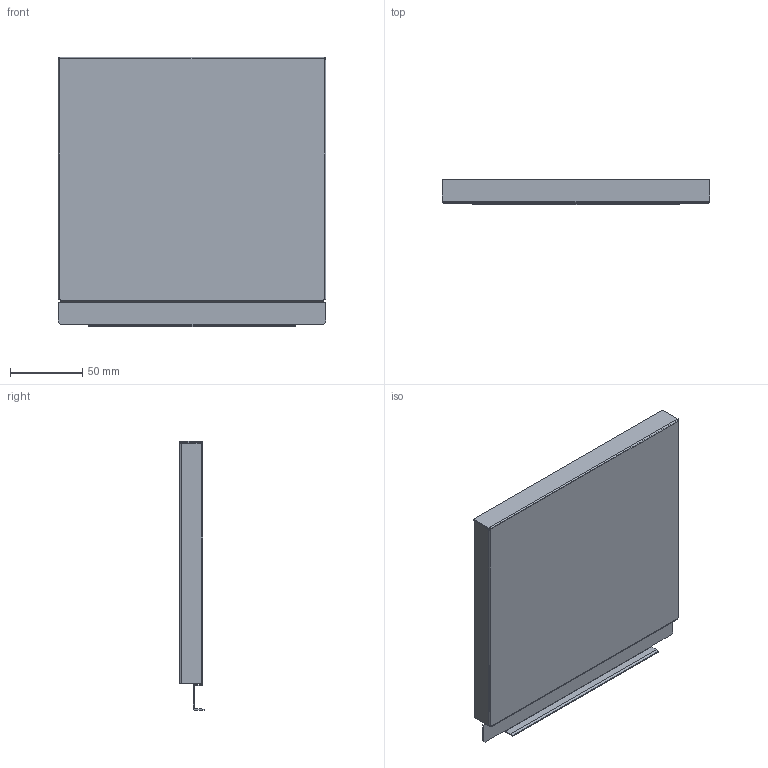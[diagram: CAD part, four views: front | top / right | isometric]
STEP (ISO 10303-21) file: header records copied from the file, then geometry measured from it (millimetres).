
FILE_DESCRIPTION (( 'STEP AP214' ), '1' );
FILE_NAME ('_STRW_H186_KAB_275.step', '2010-08-24T14:40:21', ( 'grass' ), ( '' ), 'SwSTEP 2.0', 'SolidWorks 2009', '' );
FILE_SCHEMA (( 'AUTOMOTIVE_DESIGN' ));
Length unit declared in the file: millimetre
Products named in the file (1): _STRW_H186_KAB_275
Bounding box: 185 x 17 x 186.14 mm (x, y, z)
Volume: 36679.1 mm3; surface area: 92413.2 mm2
Topology: 1 solids, 1 shells, 76 faces, 214 edges, 140 vertices
Faces by surface type: plane 54, cylinder 22
Entity records: 2472 total; most frequent: CARTESIAN_POINT 431, ORIENTED_EDGE 428, DIRECTION 412, EDGE_CURVE 214, LINE 170, VECTOR 170, VERTEX_POINT 140, AXIS2_PLACEMENT_3D 121
